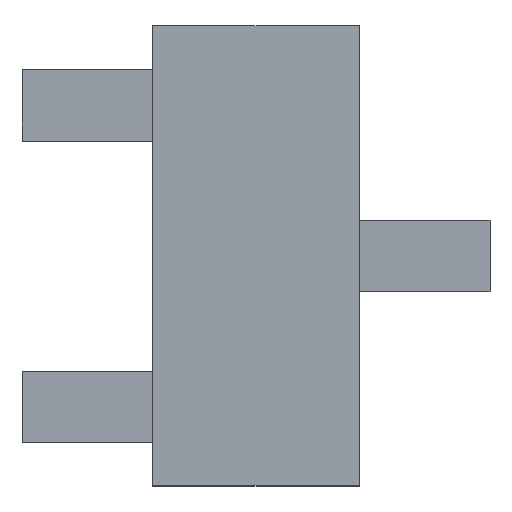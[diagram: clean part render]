
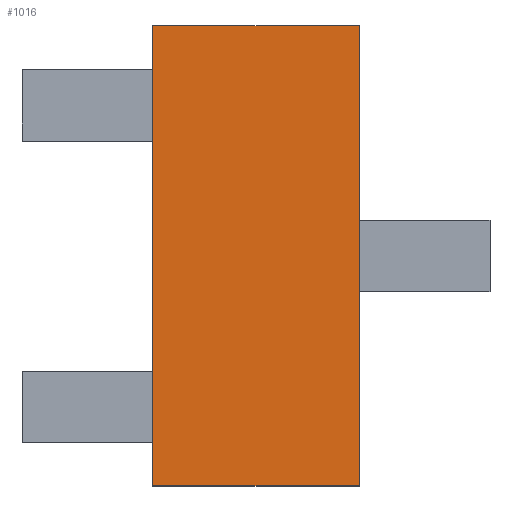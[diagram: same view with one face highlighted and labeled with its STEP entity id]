
A CAD part, top view. The second image highlights one B-rep face of the part: STEP entity #1016.
In plain terms, the highlighted planar face has unit normal (0, 0, 1).
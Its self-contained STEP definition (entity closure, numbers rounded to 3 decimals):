
#24 = VERTEX_POINT('',#25);
#25 = CARTESIAN_POINT('',(-0.65,1.45,1.05));
#32 = PLANE('',#33);
#33 = AXIS2_PLACEMENT_3D('',#34,#35,#36);
#34 = CARTESIAN_POINT('',(-0.65,-1.45,0.));
#35 = DIRECTION('',(1.,0.,0.));
#36 = DIRECTION('',(0.,0.,1.));
#44 = PLANE('',#45);
#45 = AXIS2_PLACEMENT_3D('',#46,#47,#48);
#46 = CARTESIAN_POINT('',(-0.65,1.45,0.));
#47 = DIRECTION('',(0.,1.,0.));
#48 = DIRECTION('',(0.,0.,1.));
#56 = EDGE_CURVE('',#57,#24,#59,.T.);
#57 = VERTEX_POINT('',#58);
#58 = CARTESIAN_POINT('',(-0.65,-1.45,1.05));
#59 = SURFACE_CURVE('',#60,(#64,#71),.PCURVE_S1.);
#60 = LINE('',#61,#62);
#61 = CARTESIAN_POINT('',(-0.65,-1.45,1.05));
#62 = VECTOR('',#63,1.);
#63 = DIRECTION('',(0.,1.,0.));
#64 = PCURVE('',#32,#65);
#65 = DEFINITIONAL_REPRESENTATION('',(#66),#70);
#66 = LINE('',#67,#68);
#67 = CARTESIAN_POINT('',(1.05,0.));
#68 = VECTOR('',#69,1.);
#69 = DIRECTION('',(0.,-1.));
#70 = ( GEOMETRIC_REPRESENTATION_CONTEXT(2) 
PARAMETRIC_REPRESENTATION_CONTEXT() REPRESENTATION_CONTEXT('2D SPACE',''
  ) );
#71 = PCURVE('',#72,#77);
#72 = PLANE('',#73);
#73 = AXIS2_PLACEMENT_3D('',#74,#75,#76);
#74 = CARTESIAN_POINT('',(-0.65,-1.45,1.05));
#75 = DIRECTION('',(0.,0.,1.));
#76 = DIRECTION('',(1.,0.,0.));
#77 = DEFINITIONAL_REPRESENTATION('',(#78),#82);
#78 = LINE('',#79,#80);
#79 = CARTESIAN_POINT('',(0.,0.));
#80 = VECTOR('',#81,1.);
#81 = DIRECTION('',(0.,1.));
#82 = ( GEOMETRIC_REPRESENTATION_CONTEXT(2) 
PARAMETRIC_REPRESENTATION_CONTEXT() REPRESENTATION_CONTEXT('2D SPACE',''
  ) );
#100 = PLANE('',#101);
#101 = AXIS2_PLACEMENT_3D('',#102,#103,#104);
#102 = CARTESIAN_POINT('',(-0.65,-1.45,0.));
#103 = DIRECTION('',(0.,1.,0.));
#104 = DIRECTION('',(0.,0.,1.));
#367 = EDGE_CURVE('',#24,#368,#370,.T.);
#368 = VERTEX_POINT('',#369);
#369 = CARTESIAN_POINT('',(0.65,1.45,1.05));
#370 = SURFACE_CURVE('',#371,(#375,#382),.PCURVE_S1.);
#371 = LINE('',#372,#373);
#372 = CARTESIAN_POINT('',(-0.65,1.45,1.05));
#373 = VECTOR('',#374,1.);
#374 = DIRECTION('',(1.,0.,0.));
#375 = PCURVE('',#44,#376);
#376 = DEFINITIONAL_REPRESENTATION('',(#377),#381);
#377 = LINE('',#378,#379);
#378 = CARTESIAN_POINT('',(1.05,0.));
#379 = VECTOR('',#380,1.);
#380 = DIRECTION('',(0.,1.));
#381 = ( GEOMETRIC_REPRESENTATION_CONTEXT(2) 
PARAMETRIC_REPRESENTATION_CONTEXT() REPRESENTATION_CONTEXT('2D SPACE',''
  ) );
#382 = PCURVE('',#72,#383);
#383 = DEFINITIONAL_REPRESENTATION('',(#384),#388);
#384 = LINE('',#385,#386);
#385 = CARTESIAN_POINT('',(0.,2.9));
#386 = VECTOR('',#387,1.);
#387 = DIRECTION('',(1.,0.));
#388 = ( GEOMETRIC_REPRESENTATION_CONTEXT(2) 
PARAMETRIC_REPRESENTATION_CONTEXT() REPRESENTATION_CONTEXT('2D SPACE',''
  ) );
#404 = PLANE('',#405);
#405 = AXIS2_PLACEMENT_3D('',#406,#407,#408);
#406 = CARTESIAN_POINT('',(0.65,-1.45,0.));
#407 = DIRECTION('',(1.,0.,0.));
#408 = DIRECTION('',(0.,0.,1.));
#973 = EDGE_CURVE('',#57,#974,#976,.T.);
#974 = VERTEX_POINT('',#975);
#975 = CARTESIAN_POINT('',(0.65,-1.45,1.05));
#976 = SURFACE_CURVE('',#977,(#981,#988),.PCURVE_S1.);
#977 = LINE('',#978,#979);
#978 = CARTESIAN_POINT('',(-0.65,-1.45,1.05));
#979 = VECTOR('',#980,1.);
#980 = DIRECTION('',(1.,0.,0.));
#981 = PCURVE('',#100,#982);
#982 = DEFINITIONAL_REPRESENTATION('',(#983),#987);
#983 = LINE('',#984,#985);
#984 = CARTESIAN_POINT('',(1.05,0.));
#985 = VECTOR('',#986,1.);
#986 = DIRECTION('',(0.,1.));
#987 = ( GEOMETRIC_REPRESENTATION_CONTEXT(2) 
PARAMETRIC_REPRESENTATION_CONTEXT() REPRESENTATION_CONTEXT('2D SPACE',''
  ) );
#988 = PCURVE('',#72,#989);
#989 = DEFINITIONAL_REPRESENTATION('',(#990),#994);
#990 = LINE('',#991,#992);
#991 = CARTESIAN_POINT('',(0.,0.));
#992 = VECTOR('',#993,1.);
#993 = DIRECTION('',(1.,0.));
#994 = ( GEOMETRIC_REPRESENTATION_CONTEXT(2) 
PARAMETRIC_REPRESENTATION_CONTEXT() REPRESENTATION_CONTEXT('2D SPACE',''
  ) );
#1016 = ADVANCED_FACE('',(#1017),#72,.T.);
#1017 = FACE_BOUND('',#1018,.T.);
#1018 = EDGE_LOOP('',(#1019,#1020,#1021,#1042));
#1019 = ORIENTED_EDGE('',*,*,#56,.F.);
#1020 = ORIENTED_EDGE('',*,*,#973,.T.);
#1021 = ORIENTED_EDGE('',*,*,#1022,.T.);
#1022 = EDGE_CURVE('',#974,#368,#1023,.T.);
#1023 = SURFACE_CURVE('',#1024,(#1028,#1035),.PCURVE_S1.);
#1024 = LINE('',#1025,#1026);
#1025 = CARTESIAN_POINT('',(0.65,-1.45,1.05));
#1026 = VECTOR('',#1027,1.);
#1027 = DIRECTION('',(0.,1.,0.));
#1028 = PCURVE('',#72,#1029);
#1029 = DEFINITIONAL_REPRESENTATION('',(#1030),#1034);
#1030 = LINE('',#1031,#1032);
#1031 = CARTESIAN_POINT('',(1.3,0.));
#1032 = VECTOR('',#1033,1.);
#1033 = DIRECTION('',(0.,1.));
#1034 = ( GEOMETRIC_REPRESENTATION_CONTEXT(2) 
PARAMETRIC_REPRESENTATION_CONTEXT() REPRESENTATION_CONTEXT('2D SPACE',''
  ) );
#1035 = PCURVE('',#404,#1036);
#1036 = DEFINITIONAL_REPRESENTATION('',(#1037),#1041);
#1037 = LINE('',#1038,#1039);
#1038 = CARTESIAN_POINT('',(1.05,0.));
#1039 = VECTOR('',#1040,1.);
#1040 = DIRECTION('',(0.,-1.));
#1041 = ( GEOMETRIC_REPRESENTATION_CONTEXT(2) 
PARAMETRIC_REPRESENTATION_CONTEXT() REPRESENTATION_CONTEXT('2D SPACE',''
  ) );
#1042 = ORIENTED_EDGE('',*,*,#367,.F.);
